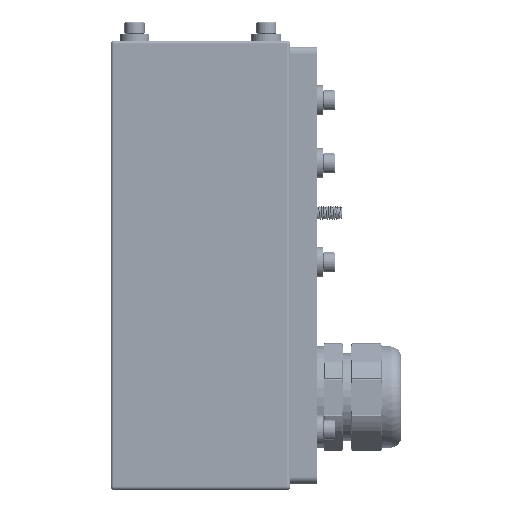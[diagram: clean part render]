
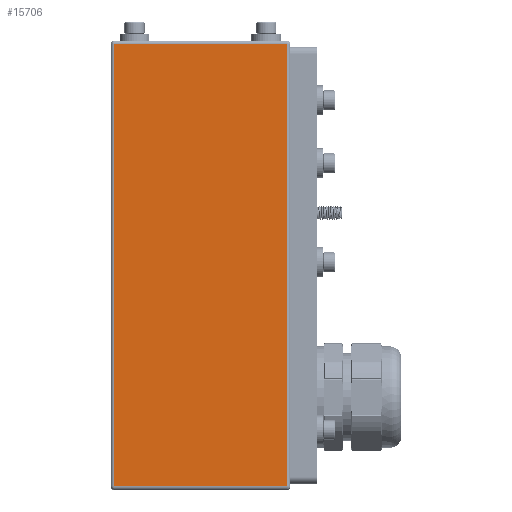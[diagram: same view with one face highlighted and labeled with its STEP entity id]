
A CAD part, left-side view. The second image highlights one B-rep face of the part: STEP entity #15706.
In plain terms, the highlighted planar face has unit normal (-1, 0, 0).
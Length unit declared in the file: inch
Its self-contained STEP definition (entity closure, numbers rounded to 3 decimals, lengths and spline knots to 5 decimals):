
#105 = CARTESIAN_POINT ( 'NONE',  ( -1.5, 2.94, -7.44 ) ) ;
#1041 = LINE ( 'NONE', #10072, #3171 ) ;
#1400 = VERTEX_POINT ( 'NONE', #1936 ) ;
#1818 = ORIENTED_EDGE ( 'NONE', *, *, #2032, .T. ) ;
#1936 = CARTESIAN_POINT ( 'NONE',  ( -1.5, 0.06, -7.44 ) ) ;
#2032 = EDGE_CURVE ( 'NONE', #8023, #1400, #3914, .T. ) ;
#2505 = EDGE_LOOP ( 'NONE', ( #8052, #1818, #21886, #2818 ) ) ;
#2818 = ORIENTED_EDGE ( 'NONE', *, *, #23839, .T. ) ;
#3171 = VECTOR ( 'NONE', #18823, 39.37008 ) ;
#3487 = AXIS2_PLACEMENT_3D ( 'NONE', #25433, #18949, #6176 ) ;
#3606 = VECTOR ( 'NONE', #28281, 39.37008 ) ;
#3914 = LINE ( 'NONE', #19265, #14247 ) ;
#6133 = LINE ( 'NONE', #23948, #3606 ) ;
#6176 = DIRECTION ( 'NONE',  ( 0., 0., -1. ) ) ;
#8023 = VERTEX_POINT ( 'NONE', #105 ) ;
#8052 = ORIENTED_EDGE ( 'NONE', *, *, #22674, .T. ) ;
#8285 = EDGE_CURVE ( 'NONE', #1400, #20748, #1041, .T. ) ;
#8339 = CARTESIAN_POINT ( 'NONE',  ( -1.5, 2.94, -0.06 ) ) ;
#10072 = CARTESIAN_POINT ( 'NONE',  ( -1.5, 0.06, -7.5 ) ) ;
#13987 = VECTOR ( 'NONE', #20682, 39.37008 ) ;
#14247 = VECTOR ( 'NONE', #28074, 39.37008 ) ;
#15706 = ADVANCED_FACE ( 'NONE', ( #19236 ), #27742, .F. ) ;
#18649 = CARTESIAN_POINT ( 'NONE',  ( -1.5, 3., -0.06 ) ) ;
#18823 = DIRECTION ( 'NONE',  ( 0., 0., 1. ) ) ;
#18949 = DIRECTION ( 'NONE',  ( 1., 0., 0. ) ) ;
#19236 = FACE_OUTER_BOUND ( 'NONE', #2505, .T. ) ;
#19265 = CARTESIAN_POINT ( 'NONE',  ( -1.5, 3., -7.44 ) ) ;
#19865 = VERTEX_POINT ( 'NONE', #8339 ) ;
#20682 = DIRECTION ( 'NONE',  ( 0., 1., 0. ) ) ;
#20748 = VERTEX_POINT ( 'NONE', #22264 ) ;
#21886 = ORIENTED_EDGE ( 'NONE', *, *, #8285, .T. ) ;
#22264 = CARTESIAN_POINT ( 'NONE',  ( -1.5, 0.06, -0.06 ) ) ;
#22674 = EDGE_CURVE ( 'NONE', #19865, #8023, #6133, .T. ) ;
#23839 = EDGE_CURVE ( 'NONE', #20748, #19865, #27450, .T. ) ;
#23948 = CARTESIAN_POINT ( 'NONE',  ( -1.5, 2.94, -7.5 ) ) ;
#25433 = CARTESIAN_POINT ( 'NONE',  ( -1.5, 3., -7.5 ) ) ;
#27450 = LINE ( 'NONE', #18649, #13987 ) ;
#27742 = PLANE ( 'NONE',  #3487 ) ;
#28074 = DIRECTION ( 'NONE',  ( 0., -1., 0. ) ) ;
#28281 = DIRECTION ( 'NONE',  ( 0., 0., -1. ) ) ;
